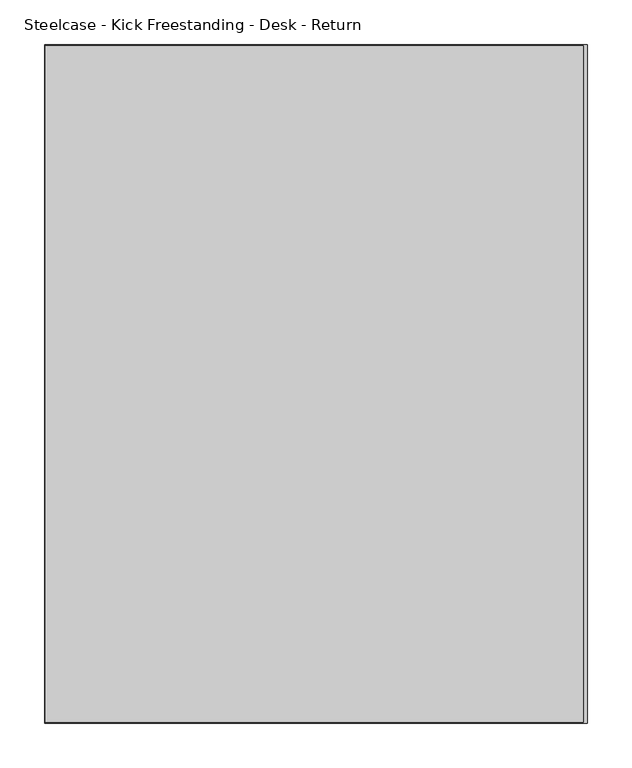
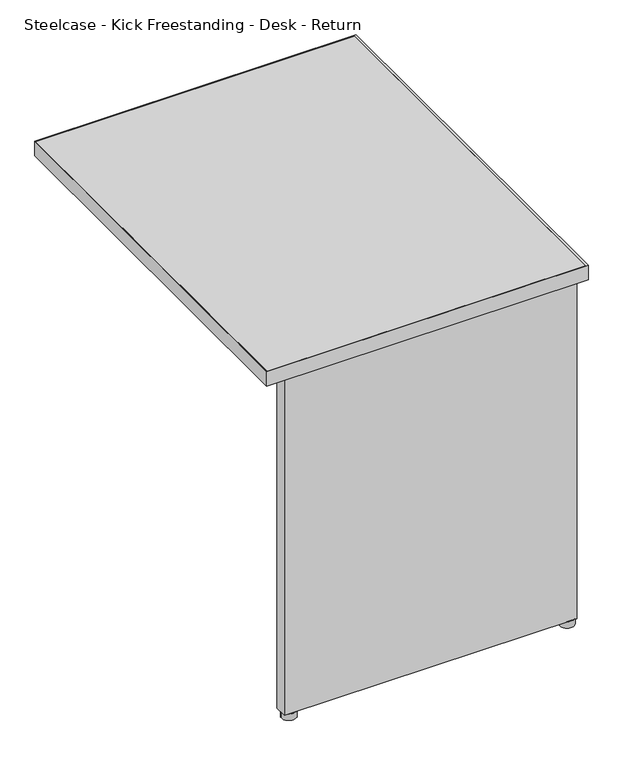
"""IFC4 building model written with IfcOpenShell, lengths in millimetres: furniture geometry, Steelcase - Kick Freestanding - Desk - Return : 24D x 30W - Left."""

from ifc_helpers import new_model, si_unit, point, frame, frame_2d, origin, origin_with_axes, place, context, project, spatial, polyline, circle_curve, trimmed, segment, composite_curve, outline, extrude, source, transform, mapped, element, save


def steelcase_kick_freestanding_desk_return_c370d631(model_context):
    return source(origin(), model_context, "Body", "SweptSolid", [
        extrude(outline(composite_curve([segment(trimmed(circle_curve(frame_2d((2220.2474425, -1283.4145152)), 13.97), [point((2206.2774425, -1283.4145152))], [point((2234.2174425, -1283.4145152))], False, "CARTESIAN"), True, "CONTINUOUS"), segment(trimmed(circle_curve(frame_2d((2220.2474425, -1283.4145152)), 13.97), [point((2234.2174425, -1283.4145152))], [point((2206.2774425, -1283.4145152))], False, "CARTESIAN"), True, "CONTINUOUS")], self_intersect=False)), origin_with_axes(), (0.0, 0.0, 1.0), 12.7),
        extrude(outline(composite_curve([segment(trimmed(circle_curve(frame_2d((2748.0594425, -1283.4145152)), 13.97), [point((2734.0894425, -1283.4145152))], [point((2762.0294425, -1283.4145152))], False, "CARTESIAN"), True, "CONTINUOUS"), segment(trimmed(circle_curve(frame_2d((2748.0594425, -1283.4145152)), 13.97), [point((2762.0294425, -1283.4145152))], [point((2734.0894425, -1283.4145152))], False, "CARTESIAN"), True, "CONTINUOUS")], self_intersect=False)), origin_with_axes(), (0.0, 0.0, 1.0), 12.7),
        extrude(outline(polyline([(2205.0074425, -1270.8669152), (2328.2736437, -1270.8669152), (2328.2736437, -1293.2951136), (2427.9940467, -1293.2951136), (2427.9940467, -1270.8669041), (2536.7314502, -1270.8669041), (2536.7314502, -1293.2951136), (2636.4518532, -1293.2951136), (2636.4518532, -1270.8669041), (2759.4894376, -1270.8669041), (2759.4894376, -1295.3525098), (2205.0074425, -1295.3525098), (2205.0074425, -1270.8669152)])), frame((0.0, 0.0, 12.7), z_axis=(0.0, 0.0, 1.0), x_axis=(1.0, 0.0, 0.0)), (0.0, 0.0, 1.0), 682.244),
        extrude(outline(polyline([(2769.2176592, -548.0845152), (2769.2176592, -1307.5445152), (2164.8500425, -1307.5445152), (2164.8500425, -548.0845152), (2769.2176592, -548.0845152)])), frame((0.0, 0.0, 694.944), z_axis=(0.0, 0.0, 1.0), x_axis=(1.0, 0.0, 0.0)), (0.0, 0.0, 1.0), 28.956),
        extrude(outline(polyline([(2773.4594425, -546.8145152), (2773.4594425, -1308.8145152), (2163.8594425, -1308.8145152), (2163.8594425, -546.8145152), (2773.4594425, -546.8145152)]), holes=[polyline([(2769.2176592, -548.0845152), (2164.8500425, -548.0845152), (2164.8500425, -1307.5445152), (2769.2176592, -1307.5445152), (2769.2176592, -548.0845152)])]), frame((0.0, 0.0, 694.944), z_axis=(0.0, 0.0, 1.0), x_axis=(1.0, 0.0, 0.0)), (0.0, 0.0, 1.0), 28.956),
    ])


if __name__ == "__main__":
    model = new_model("IFC4")
    model_context = context("Model", 3, world=origin())
    ifc_project = project(units=[si_unit("LENGTHUNIT", "METRE", prefix="MILLI")], contexts=[model_context])
    site = spatial("IfcSite", under=ifc_project)
    building = spatial("IfcBuilding", under=site)
    placement = place(None, origin())
    steelcase_kick_freestanding_desk_return_shape = steelcase_kick_freestanding_desk_return_c370d631(model_context)
    element("IfcFurniture", 1, ObjectType="Steelcase - Kick Freestanding - Desk - Return : 24D x 30W - Left", at=placement, inside=building, context=model_context, shape_type="MappedRepresentation", body=[
        mapped(steelcase_kick_freestanding_desk_return_shape, transform((0.0, 0.0, 0.0), x_axis=(1.0, 0.0, 0.0), y_axis=(0.0, 1.0, 0.0), z_axis=(0.0, 0.0, 1.0))),
    ])
    save(model, "model.ifc")
